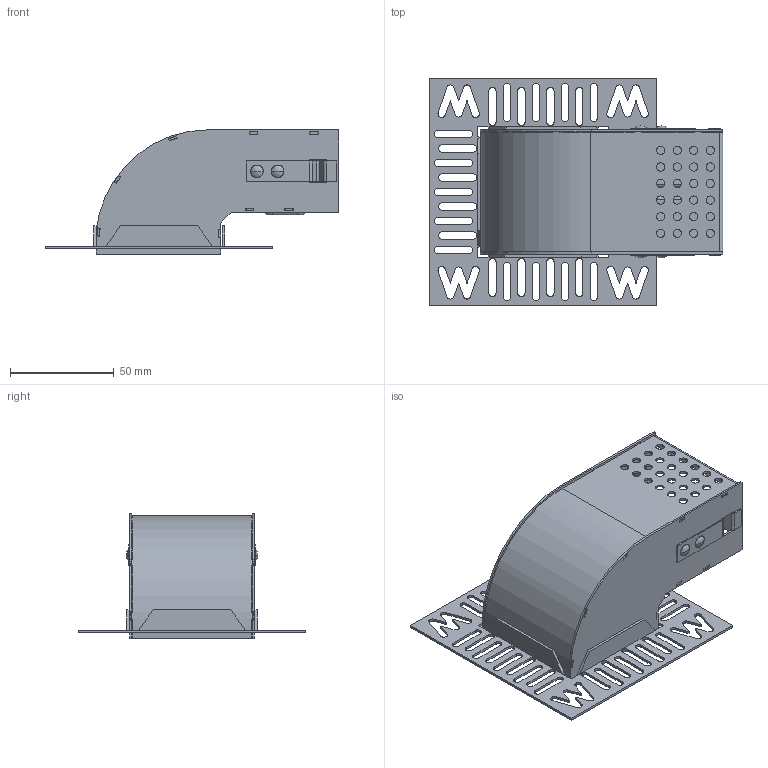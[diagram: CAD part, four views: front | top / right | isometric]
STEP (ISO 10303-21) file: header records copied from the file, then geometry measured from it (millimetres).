
FILE_DESCRIPTION (( 'STEP AP214' ), '1' );
FILE_NAME ('WG-60SCFW-RPT.STEP', '2023-02-15T18:09:23', ( '' ), ( '' ), 'SwSTEP 2.0', 'SolidWorks 2021', '' );
FILE_SCHEMA (( 'AUTOMOTIVE_DESIGN' ));
Length unit declared in the file: millimetre
Products named in the file (1): WG-60SCFW-RPT
Bounding box: 141.75 x 110 x 60.01 mm (x, y, z)
Volume: 41498.5 mm3; surface area: 86108.5 mm2
Topology: 12 solids, 12 shells, 899 faces, 2527 edges, 1646 vertices
Faces by surface type: bspline 899
Entity records: 31940 total; most frequent: CARTESIAN_POINT 10655, ORIENTED_EDGE 5022, DIRECTION 3238, EDGE_CURVE 2511, LINE 1660, VECTOR 1660, VERTEX_POINT 1646, EDGE_LOOP 1165
